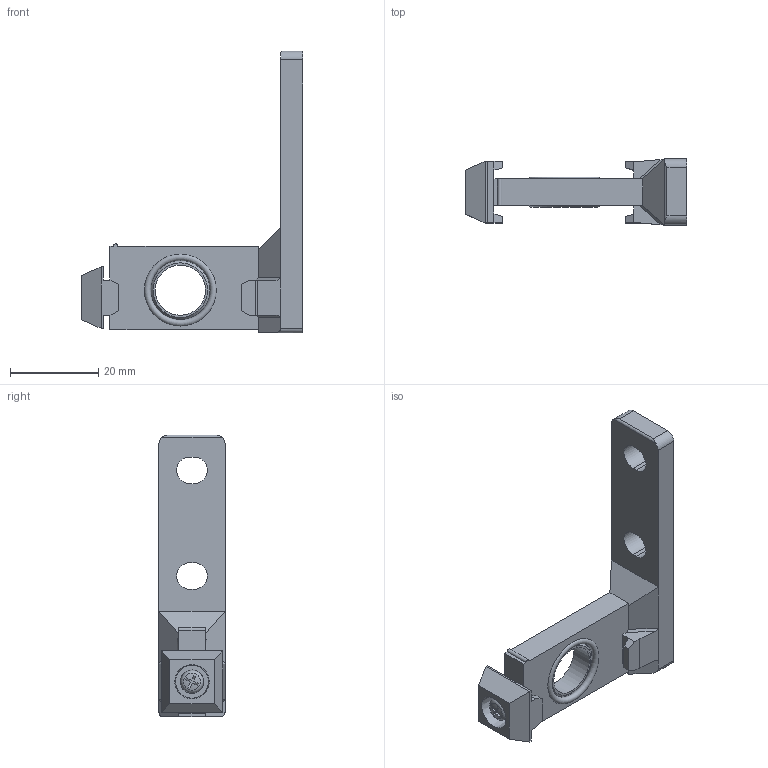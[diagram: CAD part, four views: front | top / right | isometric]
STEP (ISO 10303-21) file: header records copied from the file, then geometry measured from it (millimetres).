
FILE_DESCRIPTION( ( 'Unknown' ), '1' );
FILE_NAME( 'Y:/0-PLM共用區/支架組/220220000000003-1.stp', 'Unknown', ( 'Unknown' ), ( 'Unknown' ), 'PSStep 15.0.49', 'Unknown', ' ' );
FILE_SCHEMA( ( 'AUTOMOTIVE_DESIGN { 1 0 10303 214 1 1 1 1 }' ) );
Length unit declared in the file: millimetre
Products named in the file (1): B00103
Bounding box: 50.3 x 15 x 64 mm (x, y, z)
Volume: 8911.3 mm3; surface area: 6705 mm2
Topology: 1 solids, 5 shells, 197 faces, 476 edges, 305 vertices
Faces by surface type: plane 133, cylinder 45, cone 7, torus 6, sphere 4, bspline 2
Full cylindrical faces by diameter (mm): 3.459 x2, 3.6 x4, 4 x2, 4.5 x2, 5.3 x2, 11.4 x1, 16.3 x2
Entity records: 7076 total; most frequent: CARTESIAN_POINT 1088, DIRECTION 901, ORIENTED_EDGE 850, EDGE_CURVE 425, AXIS2_PLACEMENT_3D 306, LINE 289, VECTOR 289, VERTEX_POINT 286
